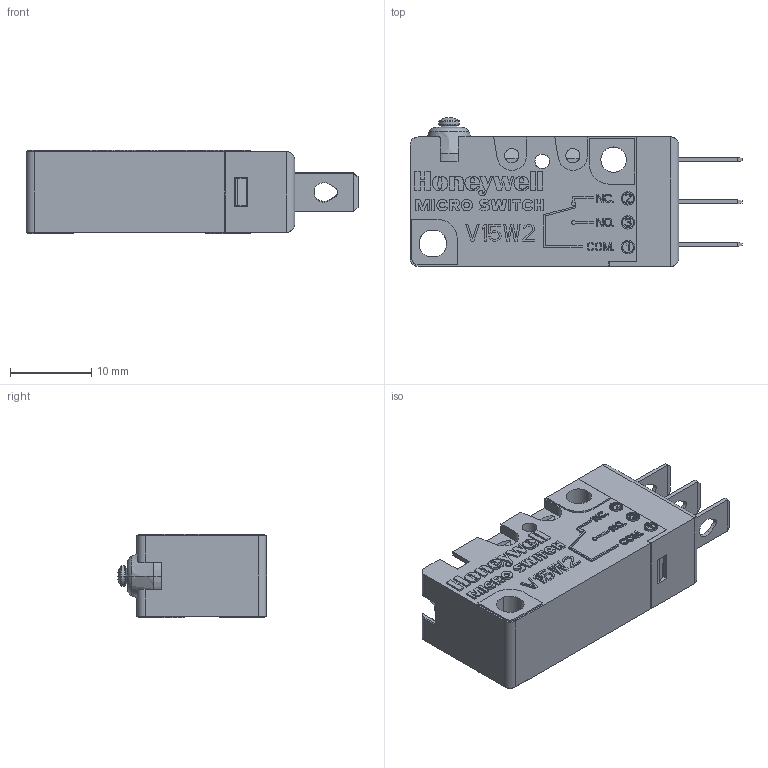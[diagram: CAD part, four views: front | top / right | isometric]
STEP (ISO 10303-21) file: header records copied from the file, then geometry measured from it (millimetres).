
FILE_DESCRIPTION((''),'2;1');
FILE_NAME('V15W2-EZX00A_ASM','2018-12-11T15:23:43',('H298241'),(''),'CREO PARAMETRIC BY PTC INC, 2017380','CREO PARAMETRIC BY PTC INC, 2017380','');
FILE_SCHEMA(('CONFIG_CONTROL_DESIGN'));
Length unit declared in the file: millimetre
Products named in the file (19): 32332540-003; 32332541-001; 32332543-001; 32332542-001; 32332648-001; 32332544-001; 32332546-001; 32302327-001_STAKE; 32332546-001_ASM; 32332545-001; 32302327-002_STAKE_AF0; 32332545-001_ASM; 32332547-001; 32332647-001; 32332548-001_STAKED_CONTACT; 32332548-001_ASM; 32332549-001; V15W2_EPOXY; V15W2-EZX00A_ASM
Assembly tree (18 placements, depth 3):
  V15W2-EZX00A_ASM
    32332540-003
    32332541-001
    32332543-001
    32332542-001
    32332648-001
    32332544-001
    32332546-001_ASM
      32332546-001
      32302327-001_STAKE
    32332545-001_ASM
      32332545-001
      32302327-002_STAKE_AF0
    32332547-001
    32332548-001_ASM
      32332647-001
      32332548-001_STAKED_CONTACT
    32332549-001
    V15W2_EPOXY
Bounding box: 40.77 x 18.3 x 10.3 mm (x, y, z)
Volume: 3199.1 mm3; surface area: 6987.5 mm2
Topology: 15 solids, 15 shells, 1556 faces, 4115 edges, 2666 vertices
Faces by surface type: plane 1139, cylinder 252, extrusion 79, torus 32, bspline 30, cone 18, sphere 6
Entity records: 50330 total; most frequent: CARTESIAN_POINT 11457, ORIENTED_EDGE 8222, DIRECTION 7500, EDGE_CURVE 4111, VECTOR 3296, LINE 3217, VERTEX_POINT 2666, AXIS2_PLACEMENT_3D 2102
